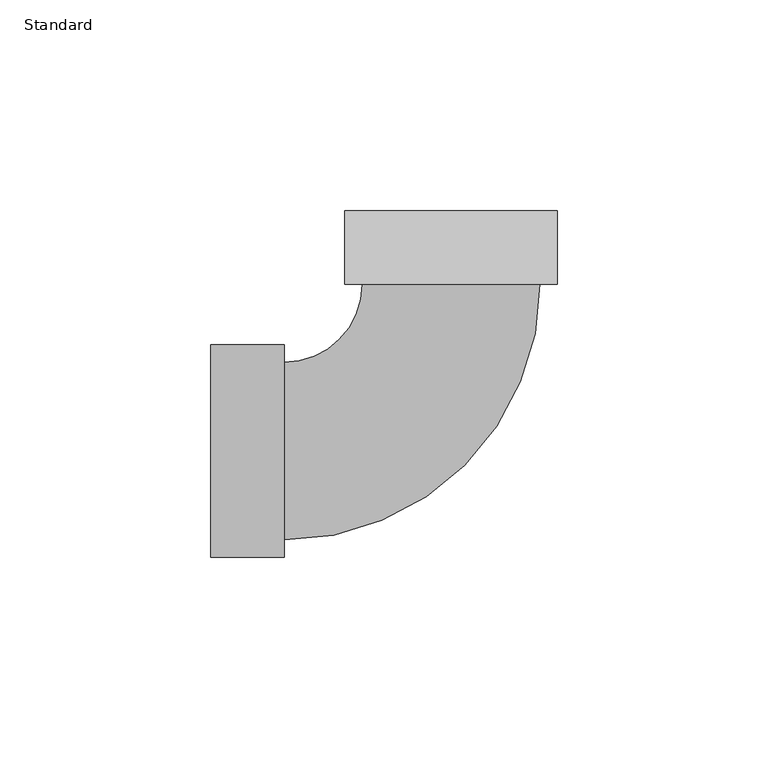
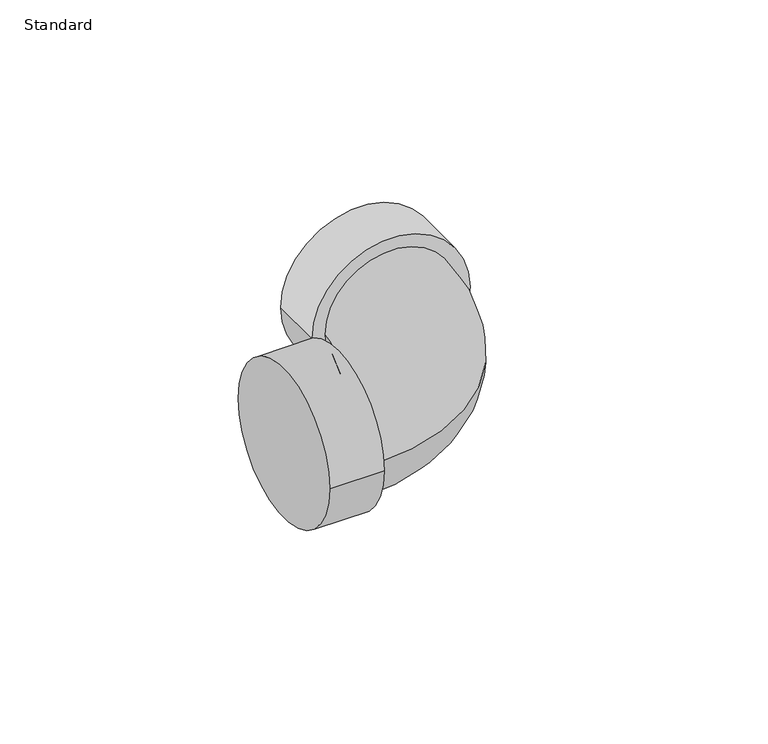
"""IFC4 building model written with IfcOpenShell, lengths in millimetres: pipe fitting geometry, Elbow_45_90-Lubrizol-CPVC-FlowGuard_MX : Standard."""

import ifcopenshell
import ifcopenshell.guid

model = None  # the IFC model being written
_history = None  # IfcOwnerHistory: only IFC2X3 demands one
_inside = {}  # id of a spatial element -> (the spatial element, [elements in it])
_under = {}  # id of a project, library or spatial element -> (it, [spatial elements below it])
_declared = {}  # id of a project -> (the project, [libraries it declares])
_typed = {}  # id of a type object -> (the type object, [elements of that type])
_made_of = {}  # id of a material, layer set ... -> (it, [elements and type objects made of it])


def new_model(schema):
    """Start an empty IFC model of exactly this schema.

    Asked for "IFC4X3", IfcOpenShell would pick the latest addendum, in which some entities
    have other attributes; the version numbers below select the first issue.
    IFC2X3 requires an IfcOwnerHistory on every rooted entity: one is made here for all.
    """
    global model, _history
    if schema == "IFC4X3":
        model = ifcopenshell.file(schema_version=(4, 3, 0, 0))
    else:
        model = ifcopenshell.file(schema=schema)
    _inside.clear()
    _under.clear()
    _declared.clear()
    _typed.clear()
    _made_of.clear()
    _history = None
    if model.schema == "IFC2X3":
        org = make("IfcOrganization", Name="unknown")
        user = make(
            "IfcPersonAndOrganization",
            ThePerson=make("IfcPerson", FamilyName="unknown"),
            TheOrganization=org,
        )
        app = make(
            "IfcApplication",
            ApplicationDeveloper=org,
            Version="unknown",
            ApplicationFullName="unknown",
            ApplicationIdentifier="unknown",
        )
        _history = make(
            "IfcOwnerHistory",
            OwningUser=user,
            OwningApplication=app,
            ChangeAction="ADDED",
            CreationDate=0,
        )
    return model


def make(cls, **values):
    """One entity of the class cls with the attributes given. An attribute that is None is left unset."""
    return model.create_entity(
        cls, **{name: value for name, value in values.items() if value is not None}
    )


def rooted(cls, **values):
    """An entity with a GlobalId (a new one), such as an element, a storey or a relation."""
    return make(cls, GlobalId=ifcopenshell.guid.new(), OwnerHistory=_history, **values)


def si_unit(unit_type, name, prefix=None):
    """IfcSIUnit, for example si_unit("LENGTHUNIT", "METRE", prefix="MILLI")."""
    return make("IfcSIUnit", UnitType=unit_type, Prefix=prefix, Name=name)


def assignment(units):
    """IfcUnitAssignment: the units of a project."""
    return None if units is None else make("IfcUnitAssignment", Units=units)


def point(xyz):
    """IfcCartesianPoint."""
    return None if xyz is None else make("IfcCartesianPoint", Coordinates=xyz)


def direction(xyz):
    """IfcDirection."""
    return None if xyz is None else make("IfcDirection", DirectionRatios=xyz)


def frame(location, z_axis=None, x_axis=None):
    """IfcAxis2Placement3D, a coordinate frame: its origin and axes. An axis left out is left unset."""
    return make(
        "IfcAxis2Placement3D",
        Location=point(location),
        Axis=direction(z_axis),
        RefDirection=direction(x_axis),
    )


def origin():
    """The frame at (0, 0, 0) with its axes left unset."""
    return frame((0.0, 0.0, 0.0))


def place(relative_to, where):
    """IfcLocalPlacement: puts the frame where relative to a parent placement (None: the world)."""
    return make(
        "IfcLocalPlacement", PlacementRelTo=relative_to, RelativePlacement=where
    )


def context(
    kind, dimensions, precision=None, world=None, true_north=None, identifier=None
):
    """IfcGeometricRepresentationContext, for example the 3D "Model" context."""
    return make(
        "IfcGeometricRepresentationContext",
        ContextIdentifier=identifier,
        ContextType=kind,
        CoordinateSpaceDimension=dimensions,
        Precision=precision,
        WorldCoordinateSystem=world,
        TrueNorth=true_north,
    )


def project(units=None, contexts=None):
    """IfcProject with its units and contexts."""
    return rooted(
        "IfcProject",
        Name="project",
        RepresentationContexts=contexts,
        UnitsInContext=assignment(units),
    )


def spatial(cls, under=None, at=None, **own):
    """A site, building, storey or space (cls), placed at a placement, below another one or the project."""
    s = rooted(cls, ObjectPlacement=at, **own)
    if under is not None:
        _under.setdefault(under.id(), (under, []))[1].append(s)
    return s


def circle_curve(where, radius):
    """IfcCircle in the frame where."""
    return make("IfcCircle", Position=where, Radius=radius)


def ellipse_curve(where, semi_axis1, semi_axis2):
    """IfcEllipse in the frame where."""
    return make(
        "IfcEllipse", Position=where, SemiAxis1=semi_axis1, SemiAxis2=semi_axis2
    )


def trimmed(basis, trim1, trim2, sense, master):
    """IfcTrimmedCurve: the piece of a basis curve between two trims."""
    return make(
        "IfcTrimmedCurve",
        BasisCurve=basis,
        Trim1=trim1,
        Trim2=trim2,
        SenseAgreement=sense,
        MasterRepresentation=master,
    )


def shape(context_of_items, identifier, shape_type, items):
    """IfcShapeRepresentation: the items that make up one representation, for example the "Body"."""
    return make(
        "IfcShapeRepresentation",
        ContextOfItems=context_of_items,
        RepresentationIdentifier=identifier,
        RepresentationType=shape_type,
        Items=items,
    )


def source(mapping_origin, context_of_items, identifier, shape_type, items):
    """IfcRepresentationMap: a shape defined once, which mapped items show again and again."""
    return make(
        "IfcRepresentationMap",
        MappingOrigin=mapping_origin,
        MappedRepresentation=shape(context_of_items, identifier, shape_type, items),
    )


def transform(
    local_origin,
    x_axis=None,
    y_axis=None,
    z_axis=None,
    scale=None,
    scale2=None,
    scale3=None,
    uniform=True,
):
    """IfcCartesianTransformationOperator3D, or its non-uniform kind. x_axis, y_axis, z_axis: its Axis1, 2, 3."""
    if uniform:
        return make(
            "IfcCartesianTransformationOperator3D",
            Axis1=direction(x_axis),
            Axis2=direction(y_axis),
            LocalOrigin=point(local_origin),
            Scale=scale,
            Axis3=direction(z_axis),
        )
    return make(
        "IfcCartesianTransformationOperator3DnonUniform",
        Axis1=direction(x_axis),
        Axis2=direction(y_axis),
        LocalOrigin=point(local_origin),
        Scale=scale,
        Axis3=direction(z_axis),
        Scale2=scale2,
        Scale3=scale3,
    )


def mapped(mapping_source, mapping_target):
    """IfcMappedItem: shows the shape of a source again, moved by a transform."""
    return make(
        "IfcMappedItem", MappingSource=mapping_source, MappingTarget=mapping_target
    )


def made_of(thing, what):
    """Note that an element or type object is made of a material, layer set ...; save() writes the relation."""
    if what is not None:
        _made_of.setdefault(what.id(), (what, []))[1].append(thing)
    return thing


def element(
    cls,
    number,
    at=None,
    inside=None,
    cuts=None,
    type_object=None,
    material=None,
    context=None,
    identifier="Body",
    shape_type=None,
    held_by="IfcProductDefinitionShape",
    body=None,
    shapes=None,
    **own,
):
    """One element of the class cls, such as IfcWall. Its Tag is "e" and its number.

    at: its placement. inside: the storey or other place that contains it. cuts: it is an
    opening in that element (IfcRelVoidsElement). A single representation is given by context,
    identifier, shape_type and body (its items); several are given by shapes. held_by: the class
    of the entity that holds the representations. save() writes the other relations.
    """
    e = rooted(cls, Tag="e%d" % number, ObjectPlacement=at, **own)
    if body is not None:
        shapes = [shape(context, identifier, shape_type, body)]
    if shapes is not None:
        e.Representation = make(held_by, Representations=shapes)
    if inside is not None:
        _inside.setdefault(inside.id(), (inside, []))[1].append(e)
    if cuts is not None:
        rooted(
            "IfcRelVoidsElement", RelatingBuildingElement=cuts, RelatedOpeningElement=e
        )
    if type_object is not None:
        _typed.setdefault(type_object.id(), (type_object, []))[1].append(e)
    return made_of(e, material)


def aggregate(whole, parts):
    """IfcRelAggregates: a whole, such as a stair, and the parts it consists of."""
    return rooted("IfcRelAggregates", RelatingObject=whole, RelatedObjects=parts)


def save(model, path):
    """Write the relations noted so far, then the file.

    IfcRelAggregates (storeys below a building ...), IfcRelContainedInSpatialStructure (elements
    in a storey), IfcRelDefinesByType, IfcRelAssociatesMaterial and IfcRelDeclares: one each for
    every whole, place, type object, material and project.
    """
    for whole, parts in _under.values():
        aggregate(whole, parts)
    for where, things in _inside.values():
        rooted(
            "IfcRelContainedInSpatialStructure",
            RelatedElements=things,
            RelatingStructure=where,
        )
    for kind, things in _typed.values():
        rooted("IfcRelDefinesByType", RelatedObjects=things, RelatingType=kind)
    for what, things in _made_of.values():
        rooted("IfcRelAssociatesMaterial", RelatedObjects=things, RelatingMaterial=what)
    for by, libraries in _declared.values():
        rooted("IfcRelDeclares", RelatingContext=by, RelatedDefinitions=libraries)
    model.write(path)


def plane_surface(at):
    """IfcPlane: the flat surface through the origin of the frame at, square to its z axis."""
    return make("IfcPlane", Position=at)


def cylinder_surface(at, radius):
    """IfcCylindricalSurface: all points at the distance radius from the z axis of the frame at."""
    return make("IfcCylindricalSurface", Position=at, Radius=radius)


def revolved_surface(curve, axis_point, axis_direction):
    """IfcSurfaceOfRevolution: the curve turned about the line through axis_point along axis_direction."""
    return make(
        "IfcSurfaceOfRevolution",
        SweptCurve=make("IfcArbitraryOpenProfileDef", ProfileType="CURVE", Curve=curve),
        AxisPosition=make("IfcAxis1Placement", Location=point(axis_point), Axis=direction(axis_direction)),
    )


def advanced_brep(points, edges, surfaces, faces):
    """IfcAdvancedBrep: a solid bounded by faces that lie on surfaces and meet in shared edges.

    An edge is (start, end): straight between two places in points (the first is 0);
    or (start, end, curve); or (start, end, curve, False) where it runs against its curve.
    A face is (place in surfaces, loops), or (place, loops, False) where it looks against
    its surface's normal. A loop lists edges by number (the first is 1), with a minus sign
    where the edge is run from its end to its start. The first loop is the outer one.
    """
    corners = [point(p) for p in points]
    vertices = [make("IfcVertexPoint", VertexGeometry=c) for c in corners]
    made = []
    for start, end, *more in edges:
        made.append(
            make(
                "IfcEdgeCurve",
                EdgeStart=vertices[start],
                EdgeEnd=vertices[end],
                EdgeGeometry=more[0] if more else make("IfcPolyline", Points=[corners[start], corners[end]]),
                SameSense=more[1] if len(more) > 1 else True,
            )
        )
    hull = []
    for where, loops, *sense in faces:
        bounds = []
        for j, loop in enumerate(loops):
            ring = [make("IfcOrientedEdge", EdgeElement=made[abs(k) - 1], Orientation=k > 0) for k in loop]
            bounds.append(
                make(
                    "IfcFaceOuterBound" if j == 0 else "IfcFaceBound",
                    Bound=make("IfcEdgeLoop", EdgeList=ring),
                    Orientation=True,
                )
            )
        hull.append(make("IfcAdvancedFace", Bounds=bounds, FaceSurface=surfaces[where], SameSense=sense[0] if sense else True))
    return make("IfcAdvancedBrep", Outer=make("IfcClosedShell", CfsFaces=hull))


def standard_48d77e49(model_context):
    return source(origin(), model_context, "Body", "AdvancedBrep", [
        advanced_brep(
        [(-57.15, -25.2349, 0.0), (-57.15, 25.2349, 0.0), (-39.7002, -25.2349, 0.0), (-39.7002, 25.2349, 0.0), (-39.7002, -21.082, 0.0), (-39.7002, 21.082, 0.0), (-21.082, 39.7002, 0.0), (21.082, 39.7002, 0.0), (25.2349, 39.7002, 0.0), (-25.2349, 39.7002, 0.0), (25.2349, 57.15, 0.0), (-25.2349, 57.15, 0.0)],
        [
            (0, 1, circle_curve(frame((-57.15, 0.0, 0.0), z_axis=(-1.0, 0.0, 0.0), x_axis=(0.0, 1.0, 0.0)), 25.2349)),
            (1, 0, circle_curve(frame((-57.15, 0.0, 0.0), z_axis=(-1.0, 0.0, 0.0), x_axis=(0.0, 1.0, 0.0)), 25.2349)),
            (2, 3, circle_curve(frame((-39.7002, 0.0, 0.0), z_axis=(1.0, 0.0, 0.0), x_axis=(0.0, 1.0, 0.0)), 25.2349)),
            (3, 2, circle_curve(frame((-39.7002, 0.0, 0.0), z_axis=(1.0, 0.0, 0.0), x_axis=(0.0, 1.0, 0.0)), 25.2349)),
            (4, 5, circle_curve(frame((-39.7002, 0.0, 0.0), z_axis=(-1.0, 0.0, 0.0), x_axis=(0.0, 1.0, 0.0)), 21.082)),
            (5, 4, circle_curve(frame((-39.7002, 0.0, 0.0), z_axis=(-1.0, 0.0, 0.0), x_axis=(0.0, 1.0, 0.0)), 21.082)),
            (0, 2),
            (3, 1),
            (6, 5, circle_curve(frame((-39.7002, 39.7002, 0.0), z_axis=(0.0, 0.0, -1.0), x_axis=(0.0, -1.0, 0.0)), 18.6182)),
            (4, 7, circle_curve(frame((-39.7002, 39.7002, 0.0), z_axis=(0.0, 0.0, 1.0), x_axis=(0.0, -1.0, 0.0)), 60.7822)),
            (7, 6, circle_curve(frame((0.0, 39.7002, 0.0), z_axis=(0.0, -1.0, 0.0), x_axis=(-1.0, 0.0, 0.0)), 21.082)),
            (6, 7, circle_curve(frame((0.0, 39.7002, 0.0), z_axis=(0.0, -1.0, 0.0), x_axis=(-1.0, 0.0, 0.0)), 21.082)),
            (8, 9, circle_curve(frame((0.0, 39.7002, 0.0), z_axis=(0.0, -1.0, 0.0), x_axis=(-1.0, 0.0, 0.0)), 25.2349)),
            (9, 8, circle_curve(frame((0.0, 39.7002, 0.0), z_axis=(0.0, -1.0, 0.0), x_axis=(-1.0, 0.0, 0.0)), 25.2349)),
            (10, 11, circle_curve(frame((0.0, 57.15, 0.0), z_axis=(0.0, 1.0, 0.0), x_axis=(-1.0, 0.0, 0.0)), 25.2349)),
            (11, 10, circle_curve(frame((0.0, 57.15, 0.0), z_axis=(0.0, 1.0, 0.0), x_axis=(-1.0, 0.0, 0.0)), 25.2349)),
            (8, 10),
            (11, 9),
        ],
        [
            plane_surface(frame((-57.15, 0.0, 0.0), z_axis=(-1.0, 0.0, 0.0), x_axis=(0.0, 0.0, 1.0))),
            plane_surface(frame((-39.7002, 0.0, 0.0), z_axis=(1.0, 0.0, 0.0), x_axis=(0.0, 0.0, 1.0))),
            cylinder_surface(frame((-57.15, 0.0, 0.0), z_axis=(-1.0, 0.0, 0.0), x_axis=(0.0, 1.0, 0.0)), 25.2349),
            revolved_surface(trimmed(ellipse_curve(frame((-39.7002, 0.0, 0.0), z_axis=(-1.0, 0.0, 0.0), x_axis=(0.0, 1.0, 0.0)), 21.082, 21.082), [point((-39.7002, -21.082, 0.0))], [point((-39.7002, 21.082, 0.0))], True, "CARTESIAN"), (-39.7002, 39.7002, 0.0), (0.0, 0.0, 1.0)),
            revolved_surface(trimmed(ellipse_curve(frame((-39.7002, 0.0, 0.0), z_axis=(-1.0, 0.0, 0.0), x_axis=(0.0, 1.0, 0.0)), 21.082, 21.082), [point((-39.7002, 21.082, 0.0))], [point((-39.7002, -21.082, 0.0))], True, "CARTESIAN"), (-39.7002, 39.7002, 0.0), (0.0, 0.0, 1.0)),
            plane_surface(frame((0.0, 39.7002, 0.0), z_axis=(0.0, -1.0, 0.0), x_axis=(0.0, 0.0, 1.0))),
            plane_surface(frame((0.0, 57.15, 0.0), z_axis=(0.0, 1.0, 0.0), x_axis=(0.0, 0.0, 1.0))),
            cylinder_surface(frame((0.0, 39.7002, 0.0), z_axis=(0.0, -1.0, 0.0), x_axis=(-1.0, 0.0, 0.0)), 25.2349),
        ],
        [
            (0, [[1, 2]]),
            (1, [[3, 4], [5, 6]]),
            (2, [[-1, 7, -4, 8]]),
            (2, [[-2, -8, -3, -7]]),
            (3, [[9, -5, 10, 11]]),
            (4, [[-9, 12, -10, -6]]),
            (5, [[13, 14], [-11, -12]]),
            (6, [[15, 16]]),
            (7, [[-13, 17, -16, 18]]),
            (7, [[-14, -18, -15, -17]]),
        ],
    ),
    ])


if __name__ == "__main__":
    model = new_model("IFC4")
    model_context = context("Model", 3, world=origin())
    ifc_project = project(units=[si_unit("LENGTHUNIT", "METRE", prefix="MILLI")], contexts=[model_context])
    site = spatial("IfcSite", under=ifc_project)
    building = spatial("IfcBuilding", under=site)
    placement = place(None, origin())
    standard_shape = standard_48d77e49(model_context)
    element("IfcPipeFitting", 1, ObjectType="Elbow_45_90-Lubrizol-CPVC-FlowGuard_MX : Standard", at=placement, inside=building, context=model_context, shape_type="MappedRepresentation", body=[
        mapped(standard_shape, transform((0.0, 0.0, 0.0), x_axis=(1.0, 0.0, 0.0), y_axis=(0.0, 1.0, 0.0), z_axis=(0.0, 0.0, 1.0))),
    ])
    save(model, "model.ifc")
